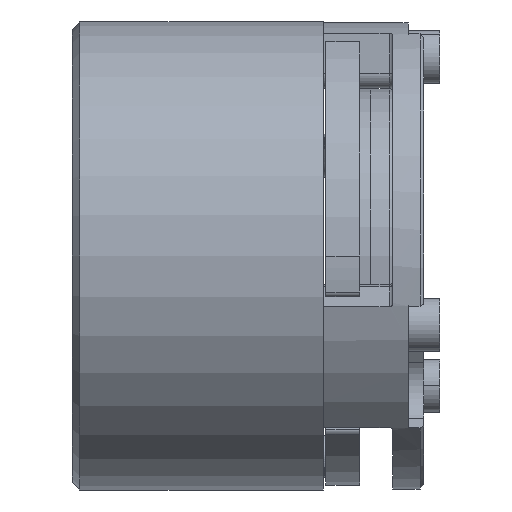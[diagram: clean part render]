
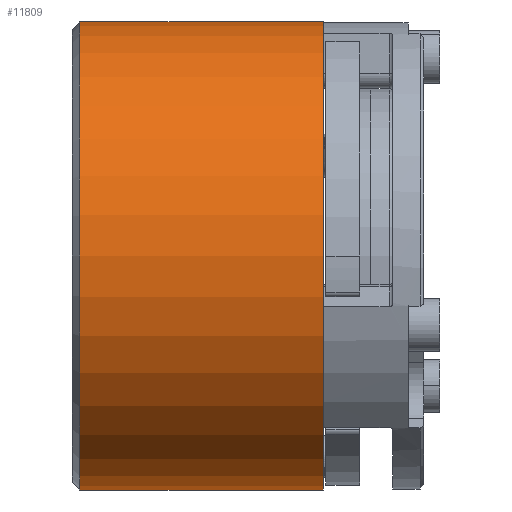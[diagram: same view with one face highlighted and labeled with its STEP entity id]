
A CAD part, front view. The second image highlights one B-rep face of the part: STEP entity #11809.
In plain terms, the highlighted cylindrical face has radius 15.862 mm (diameter 31.725 mm), a partial arc.
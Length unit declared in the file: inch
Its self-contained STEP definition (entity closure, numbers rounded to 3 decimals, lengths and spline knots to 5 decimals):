
#1119 = EDGE_CURVE ( 'NONE', #9299, #3769, #1157, .T. ) ;
#1157 = LINE ( 'NONE', #26393, #21650 ) ;
#2821 = CARTESIAN_POINT ( 'NONE',  ( 0.02, 0., 0. ) ) ;
#3364 = DIRECTION ( 'NONE',  ( -1., 0., 0. ) ) ;
#3726 = AXIS2_PLACEMENT_3D ( 'NONE', #6773, #28370, #5727 ) ;
#3769 = VERTEX_POINT ( 'NONE', #21594 ) ;
#5727 = DIRECTION ( 'NONE',  ( 0., 0., 1. ) ) ;
#6773 = CARTESIAN_POINT ( 'NONE',  ( -0.08819, 0., 0. ) ) ;
#7480 = ORIENTED_EDGE ( 'NONE', *, *, #1119, .T. ) ;
#9299 = VERTEX_POINT ( 'NONE', #9404 ) ;
#9404 = CARTESIAN_POINT ( 'NONE',  ( 0.67, 0., 0.6245 ) ) ;
#9457 = VERTEX_POINT ( 'NONE', #10505 ) ;
#10505 = CARTESIAN_POINT ( 'NONE',  ( 0.02, 0., -0.6245 ) ) ;
#11809 = ADVANCED_FACE ( 'NONE', ( #28181 ), #25581, .T. ) ;
#12297 = DIRECTION ( 'NONE',  ( -1., 0., 0. ) ) ;
#15414 = CARTESIAN_POINT ( 'NONE',  ( -0.08819, 0., -0.6245 ) ) ;
#19421 = AXIS2_PLACEMENT_3D ( 'NONE', #32787, #21295, #35216 ) ;
#20063 = AXIS2_PLACEMENT_3D ( 'NONE', #2821, #3364, #33824 ) ;
#21295 = DIRECTION ( 'NONE',  ( -1., 0., 0. ) ) ;
#21594 = CARTESIAN_POINT ( 'NONE',  ( 0.02, 0., 0.6245 ) ) ;
#21650 = VECTOR ( 'NONE', #12297, 39.37008 ) ;
#21924 = ORIENTED_EDGE ( 'NONE', *, *, #25804, .F. ) ;
#23611 = CARTESIAN_POINT ( 'NONE',  ( 0.67, 0., -0.6245 ) ) ;
#23858 = ORIENTED_EDGE ( 'NONE', *, *, #28042, .F. ) ;
#24205 = VECTOR ( 'NONE', #27078, 39.37008 ) ;
#25581 = CYLINDRICAL_SURFACE ( 'NONE', #3726, 0.6245 ) ;
#25804 = EDGE_CURVE ( 'NONE', #9457, #3769, #34851, .T. ) ;
#25924 = CIRCLE ( 'NONE', #19421, 0.6245 ) ;
#26393 = CARTESIAN_POINT ( 'NONE',  ( -0.08819, 0., 0.6245 ) ) ;
#27078 = DIRECTION ( 'NONE',  ( -1., 0., 0. ) ) ;
#27189 = EDGE_LOOP ( 'NONE', ( #23858, #27469, #7480, #21924 ) ) ;
#27469 = ORIENTED_EDGE ( 'NONE', *, *, #29461, .T. ) ;
#28042 = EDGE_CURVE ( 'NONE', #33512, #9457, #34889, .T. ) ;
#28181 = FACE_OUTER_BOUND ( 'NONE', #27189, .T. ) ;
#28370 = DIRECTION ( 'NONE',  ( -1., 0., 0. ) ) ;
#29461 = EDGE_CURVE ( 'NONE', #33512, #9299, #25924, .T. ) ;
#32787 = CARTESIAN_POINT ( 'NONE',  ( 0.67, 0., 0. ) ) ;
#33512 = VERTEX_POINT ( 'NONE', #23611 ) ;
#33824 = DIRECTION ( 'NONE',  ( 0., 0., 1. ) ) ;
#34851 = CIRCLE ( 'NONE', #20063, 0.6245 ) ;
#34889 = LINE ( 'NONE', #15414, #24205 ) ;
#35216 = DIRECTION ( 'NONE',  ( 0., 0., 1. ) ) ;
